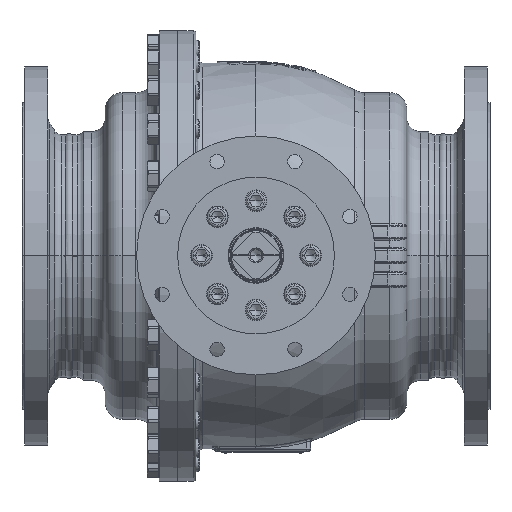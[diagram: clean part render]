
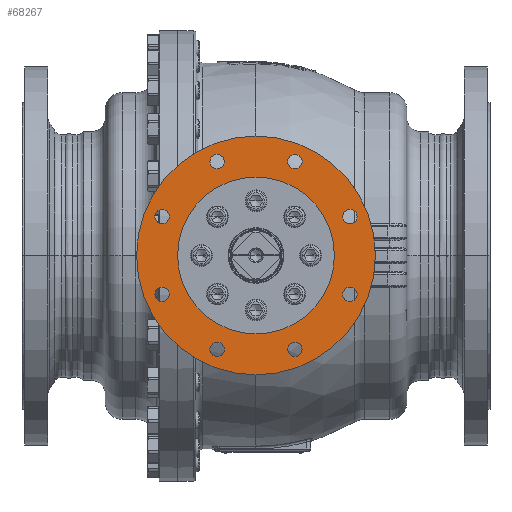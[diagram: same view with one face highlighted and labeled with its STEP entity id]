
A CAD part, top view. The second image highlights one B-rep face of the part: STEP entity #68267.
In plain terms, the highlighted planar face has unit normal (0, 0, 1).
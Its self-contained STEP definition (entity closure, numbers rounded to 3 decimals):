
#2626=CARTESIAN_POINT('',(0.,0.,440.));
#2627=DIRECTION('',(0.,0.,1.));
#2628=DIRECTION('',(1.,0.,0.));
#2629=AXIS2_PLACEMENT_3D('',#2626,#2627,#2628);
#2631=CARTESIAN_POINT('',(0.,0.,440.));
#2632=DIRECTION('',(0.,0.,-1.));
#2633=DIRECTION('',(1.,0.,0.));
#2634=AXIS2_PLACEMENT_3D('',#2631,#2632,#2633);
#2636=CARTESIAN_POINT('',(-57.02,137.658,440.));
#2637=DIRECTION('',(0.,0.,-1.));
#2638=DIRECTION('',(-1.,0.,0.));
#2639=AXIS2_PLACEMENT_3D('',#2636,#2637,#2638);
#2641=CARTESIAN_POINT('',(-57.02,137.658,440.));
#2642=DIRECTION('',(0.,0.,-1.));
#2643=DIRECTION('',(1.,0.,0.));
#2644=AXIS2_PLACEMENT_3D('',#2641,#2642,#2643);
#2646=CARTESIAN_POINT('',(57.02,137.658,440.));
#2647=DIRECTION('',(0.,0.,-1.));
#2648=DIRECTION('',(-0.707,0.707,0.));
#2649=AXIS2_PLACEMENT_3D('',#2646,#2647,#2648);
#2651=CARTESIAN_POINT('',(57.02,137.658,440.));
#2652=DIRECTION('',(0.,0.,-1.));
#2653=DIRECTION('',(0.707,-0.707,0.));
#2654=AXIS2_PLACEMENT_3D('',#2651,#2652,#2653);
#2656=CARTESIAN_POINT('',(137.658,57.02,440.));
#2657=DIRECTION('',(0.,0.,-1.));
#2658=DIRECTION('',(0.,1.,0.));
#2659=AXIS2_PLACEMENT_3D('',#2656,#2657,#2658);
#2661=CARTESIAN_POINT('',(137.658,57.02,440.));
#2662=DIRECTION('',(0.,0.,-1.));
#2663=DIRECTION('',(0.,-1.,0.));
#2664=AXIS2_PLACEMENT_3D('',#2661,#2662,#2663);
#2666=CARTESIAN_POINT('',(137.658,-57.02,440.));
#2667=DIRECTION('',(0.,0.,-1.));
#2668=DIRECTION('',(0.707,0.707,0.));
#2669=AXIS2_PLACEMENT_3D('',#2666,#2667,#2668);
#2671=CARTESIAN_POINT('',(137.658,-57.02,440.));
#2672=DIRECTION('',(0.,0.,-1.));
#2673=DIRECTION('',(-0.707,-0.707,0.));
#2674=AXIS2_PLACEMENT_3D('',#2671,#2672,#2673);
#2676=CARTESIAN_POINT('',(57.02,-137.658,440.));
#2677=DIRECTION('',(0.,0.,-1.));
#2678=DIRECTION('',(1.,0.,0.));
#2679=AXIS2_PLACEMENT_3D('',#2676,#2677,#2678);
#2681=CARTESIAN_POINT('',(57.02,-137.658,440.));
#2682=DIRECTION('',(0.,0.,-1.));
#2683=DIRECTION('',(-1.,0.,0.));
#2684=AXIS2_PLACEMENT_3D('',#2681,#2682,#2683);
#2686=CARTESIAN_POINT('',(-57.02,-137.658,440.));
#2687=DIRECTION('',(0.,0.,-1.));
#2688=DIRECTION('',(0.707,-0.707,0.));
#2689=AXIS2_PLACEMENT_3D('',#2686,#2687,#2688);
#2691=CARTESIAN_POINT('',(-57.02,-137.658,440.));
#2692=DIRECTION('',(0.,0.,-1.));
#2693=DIRECTION('',(-0.707,0.707,0.));
#2694=AXIS2_PLACEMENT_3D('',#2691,#2692,#2693);
#2696=CARTESIAN_POINT('',(-137.658,-57.02,440.));
#2697=DIRECTION('',(0.,0.,-1.));
#2698=DIRECTION('',(0.,-1.,0.));
#2699=AXIS2_PLACEMENT_3D('',#2696,#2697,#2698);
#2701=CARTESIAN_POINT('',(-137.658,-57.02,440.));
#2702=DIRECTION('',(0.,0.,-1.));
#2703=DIRECTION('',(0.,1.,0.));
#2704=AXIS2_PLACEMENT_3D('',#2701,#2702,#2703);
#2706=CARTESIAN_POINT('',(-137.658,57.02,440.));
#2707=DIRECTION('',(0.,0.,-1.));
#2708=DIRECTION('',(-0.707,-0.707,0.));
#2709=AXIS2_PLACEMENT_3D('',#2706,#2707,#2708);
#2711=CARTESIAN_POINT('',(-137.658,57.02,440.));
#2712=DIRECTION('',(0.,0.,-1.));
#2713=DIRECTION('',(0.707,0.707,0.));
#2714=AXIS2_PLACEMENT_3D('',#2711,#2712,#2713);
#2720=CARTESIAN_POINT('',(0.,0.,440.));
#2721=DIRECTION('',(0.,0.,-1.));
#2722=DIRECTION('',(1.,0.,0.));
#2723=AXIS2_PLACEMENT_3D('',#2720,#2721,#2722);
#2729=CARTESIAN_POINT('',(0.,0.,440.));
#2730=DIRECTION('',(0.,0.,1.));
#2731=DIRECTION('',(1.,0.,0.));
#2732=AXIS2_PLACEMENT_3D('',#2729,#2730,#2731);
#64919=CARTESIAN_POINT('',(115.,0.,440.));
#64921=VERTEX_POINT('',#64919);
#64923=CARTESIAN_POINT('',(-115.,0.,440.));
#64925=VERTEX_POINT('',#64923);
#64996=CARTESIAN_POINT('',(175.,0.,440.));
#64998=VERTEX_POINT('',#64996);
#65000=CARTESIAN_POINT('',(-175.,0.,440.));
#65002=VERTEX_POINT('',#65000);
#65075=CARTESIAN_POINT('',(-67.52,137.658,440.));
#65076=CARTESIAN_POINT('',(-46.52,137.658,440.));
#65077=VERTEX_POINT('',#65075);
#65078=VERTEX_POINT('',#65076);
#65083=CARTESIAN_POINT('',(49.595,145.083,440.));
#65084=CARTESIAN_POINT('',(64.444,130.233,440.));
#65085=VERTEX_POINT('',#65083);
#65086=VERTEX_POINT('',#65084);
#65091=CARTESIAN_POINT('',(137.658,67.52,440.));
#65092=CARTESIAN_POINT('',(137.658,46.52,440.));
#65093=VERTEX_POINT('',#65091);
#65094=VERTEX_POINT('',#65092);
#65099=CARTESIAN_POINT('',(145.083,-49.595,440.));
#65100=CARTESIAN_POINT('',(130.233,-64.444,440.));
#65101=VERTEX_POINT('',#65099);
#65102=VERTEX_POINT('',#65100);
#65107=CARTESIAN_POINT('',(67.52,-137.658,440.));
#65108=CARTESIAN_POINT('',(46.52,-137.658,440.));
#65109=VERTEX_POINT('',#65107);
#65110=VERTEX_POINT('',#65108);
#65115=CARTESIAN_POINT('',(-49.595,-145.083,440.));
#65116=CARTESIAN_POINT('',(-64.444,-130.233,440.));
#65117=VERTEX_POINT('',#65115);
#65118=VERTEX_POINT('',#65116);
#65123=CARTESIAN_POINT('',(-137.658,-67.52,440.));
#65124=CARTESIAN_POINT('',(-137.658,-46.52,440.));
#65125=VERTEX_POINT('',#65123);
#65126=VERTEX_POINT('',#65124);
#65131=CARTESIAN_POINT('',(-145.083,49.595,440.));
#65132=CARTESIAN_POINT('',(-130.233,64.444,440.));
#65133=VERTEX_POINT('',#65131);
#65134=VERTEX_POINT('',#65132);
#68204=CARTESIAN_POINT('',(0.,0.,440.));
#68205=DIRECTION('',(0.,0.,1.));
#68206=DIRECTION('',(1.,0.,0.));
#68207=AXIS2_PLACEMENT_3D('',#68204,#68205,#68206);
#68208=PLANE('',#68207);
#68209=ORIENTED_EDGE('',*,*,#68197,.F.);
#68210=ORIENTED_EDGE('',*,*,#68186,.T.);
#68211=EDGE_LOOP('',(#68209,#68210));
#68212=FACE_OUTER_BOUND('',#68211,.F.);
#68214=ORIENTED_EDGE('',*,*,#68213,.F.);
#68216=ORIENTED_EDGE('',*,*,#68215,.T.);
#68217=EDGE_LOOP('',(#68214,#68216));
#68218=FACE_BOUND('',#68217,.F.);
#68220=ORIENTED_EDGE('',*,*,#68219,.F.);
#68222=ORIENTED_EDGE('',*,*,#68221,.F.);
#68223=EDGE_LOOP('',(#68220,#68222));
#68224=FACE_BOUND('',#68223,.F.);
#68226=ORIENTED_EDGE('',*,*,#68225,.F.);
#68228=ORIENTED_EDGE('',*,*,#68227,.F.);
#68229=EDGE_LOOP('',(#68226,#68228));
#68230=FACE_BOUND('',#68229,.F.);
#68232=ORIENTED_EDGE('',*,*,#68231,.F.);
#68234=ORIENTED_EDGE('',*,*,#68233,.F.);
#68235=EDGE_LOOP('',(#68232,#68234));
#68236=FACE_BOUND('',#68235,.F.);
#68238=ORIENTED_EDGE('',*,*,#68237,.F.);
#68240=ORIENTED_EDGE('',*,*,#68239,.F.);
#68241=EDGE_LOOP('',(#68238,#68240));
#68242=FACE_BOUND('',#68241,.F.);
#68244=ORIENTED_EDGE('',*,*,#68243,.F.);
#68246=ORIENTED_EDGE('',*,*,#68245,.F.);
#68247=EDGE_LOOP('',(#68244,#68246));
#68248=FACE_BOUND('',#68247,.F.);
#68250=ORIENTED_EDGE('',*,*,#68249,.F.);
#68252=ORIENTED_EDGE('',*,*,#68251,.F.);
#68253=EDGE_LOOP('',(#68250,#68252));
#68254=FACE_BOUND('',#68253,.F.);
#68256=ORIENTED_EDGE('',*,*,#68255,.F.);
#68258=ORIENTED_EDGE('',*,*,#68257,.F.);
#68259=EDGE_LOOP('',(#68256,#68258));
#68260=FACE_BOUND('',#68259,.F.);
#68262=ORIENTED_EDGE('',*,*,#68261,.F.);
#68264=ORIENTED_EDGE('',*,*,#68263,.F.);
#68265=EDGE_LOOP('',(#68262,#68264));
#68266=FACE_BOUND('',#68265,.F.);
#68267=ADVANCED_FACE('',(#68212,#68218,#68224,#68230,#68236,#68242,#68248,
#68254,#68260,#68266),#68208,.T.);
#2630=CIRCLE('',#2629,175.);
#2635=CIRCLE('',#2634,175.);
#2640=CIRCLE('',#2639,10.5);
#2645=CIRCLE('',#2644,10.5);
#2650=CIRCLE('',#2649,10.5);
#2655=CIRCLE('',#2654,10.5);
#2660=CIRCLE('',#2659,10.5);
#2665=CIRCLE('',#2664,10.5);
#2670=CIRCLE('',#2669,10.5);
#2675=CIRCLE('',#2674,10.5);
#2680=CIRCLE('',#2679,10.5);
#2685=CIRCLE('',#2684,10.5);
#2690=CIRCLE('',#2689,10.5);
#2695=CIRCLE('',#2694,10.5);
#2700=CIRCLE('',#2699,10.5);
#2705=CIRCLE('',#2704,10.5);
#2710=CIRCLE('',#2709,10.5);
#2715=CIRCLE('',#2714,10.5);
#2724=CIRCLE('',#2723,115.);
#2733=CIRCLE('',#2732,115.);
#68186=EDGE_CURVE('',#64998,#65002,#2635,.T.);
#68197=EDGE_CURVE('',#64998,#65002,#2630,.T.);
#68213=EDGE_CURVE('',#64921,#64925,#2724,.T.);
#68215=EDGE_CURVE('',#64921,#64925,#2733,.T.);
#68219=EDGE_CURVE('',#65077,#65078,#2640,.T.);
#68221=EDGE_CURVE('',#65078,#65077,#2645,.T.);
#68225=EDGE_CURVE('',#65085,#65086,#2650,.T.);
#68227=EDGE_CURVE('',#65086,#65085,#2655,.T.);
#68231=EDGE_CURVE('',#65093,#65094,#2660,.T.);
#68233=EDGE_CURVE('',#65094,#65093,#2665,.T.);
#68237=EDGE_CURVE('',#65101,#65102,#2670,.T.);
#68239=EDGE_CURVE('',#65102,#65101,#2675,.T.);
#68243=EDGE_CURVE('',#65109,#65110,#2680,.T.);
#68245=EDGE_CURVE('',#65110,#65109,#2685,.T.);
#68249=EDGE_CURVE('',#65117,#65118,#2690,.T.);
#68251=EDGE_CURVE('',#65118,#65117,#2695,.T.);
#68255=EDGE_CURVE('',#65125,#65126,#2700,.T.);
#68257=EDGE_CURVE('',#65126,#65125,#2705,.T.);
#68261=EDGE_CURVE('',#65133,#65134,#2710,.T.);
#68263=EDGE_CURVE('',#65134,#65133,#2715,.T.);
